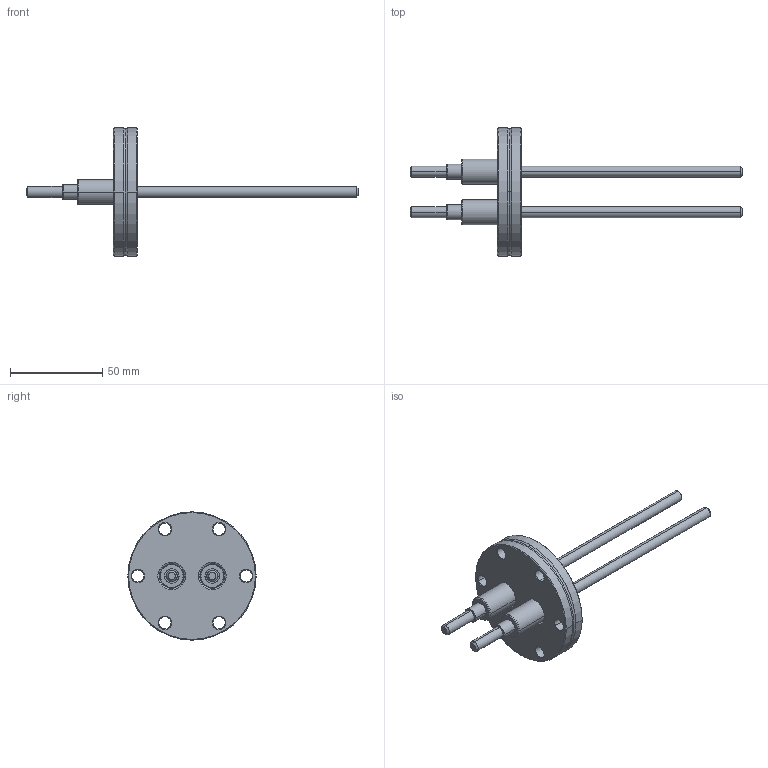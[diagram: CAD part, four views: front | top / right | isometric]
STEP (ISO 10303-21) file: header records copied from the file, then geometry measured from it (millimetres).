
FILE_DESCRIPTION((''),'2;1');
FILE_NAME('W:\214-128.stp','2004-01-23T13:24:56',('KAA'),(''),'Autodesk Inventor (R) 6.0','Autodesk Inventor (R) 6.0','');
FILE_SCHEMA(('CONFIG_CONTROL_DESIGN'));
Length unit declared in the file: millimetre
Products named in the file (1): 214-128
Bounding box: 180 x 69.5 x 69.5 mm (x, y, z)
Volume: 55375.1 mm3; surface area: 23778 mm2
Topology: 1 solids, 1 shells, 192 faces, 456 edges, 288 vertices
Faces by surface type: cone 58, cylinder 48, bspline 32, torus 30, plane 24
Entity records: 6433 total; most frequent: CARTESIAN_POINT 1697, DIRECTION 1104, ORIENTED_EDGE 912, AXIS2_PLACEMENT_3D 487, EDGE_CURVE 456, CIRCLE 326, VERTEX_POINT 288, EDGE_LOOP 226
